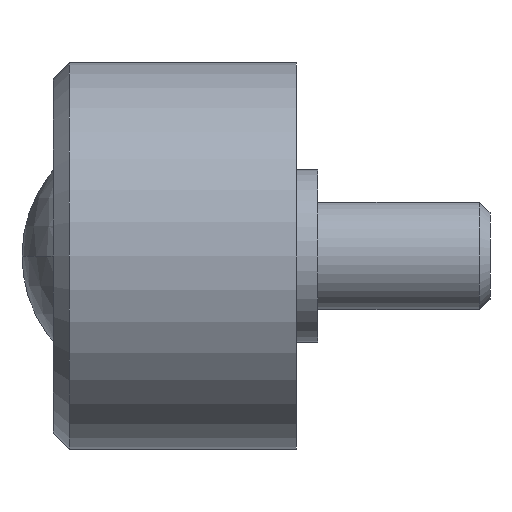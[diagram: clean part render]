
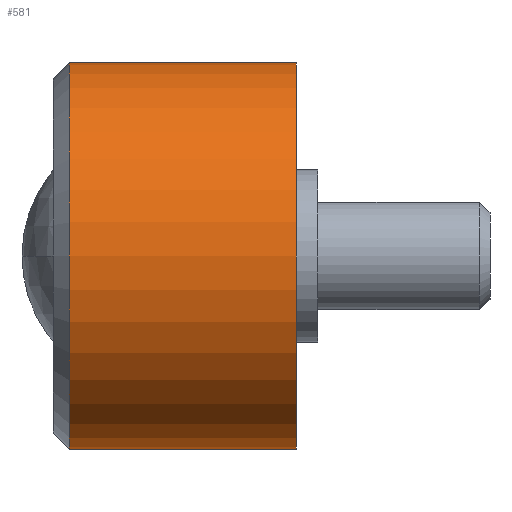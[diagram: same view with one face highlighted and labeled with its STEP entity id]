
A CAD part, left-side view. The second image highlights one B-rep face of the part: STEP entity #581.
In plain terms, the highlighted cylindrical face has radius 18 mm (diameter 36 mm), a partial arc.
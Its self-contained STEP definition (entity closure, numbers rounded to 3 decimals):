
#18 = VERTEX_POINT ( 'NONE', #382 ) ;
#21 = ORIENTED_EDGE ( 'NONE', *, *, #117, .T. ) ;
#30 = EDGE_CURVE ( 'NONE', #18, #146, #697, .T. ) ;
#37 = LINE ( 'NONE', #403, #81 ) ;
#42 = DIRECTION ( 'NONE',  ( 0., -1., 0. ) ) ;
#48 = DIRECTION ( 'NONE',  ( 0., -1., 0. ) ) ;
#62 = CARTESIAN_POINT ( 'NONE',  ( 0., 0., 0. ) ) ;
#65 = CYLINDRICAL_SURFACE ( 'NONE', #605, 18. ) ;
#78 = EDGE_CURVE ( 'NONE', #493, #18, #37, .T. ) ;
#81 = VECTOR ( 'NONE', #48, 1000. ) ;
#100 = VERTEX_POINT ( 'NONE', #704 ) ;
#114 = VECTOR ( 'NONE', #230, 1000. ) ;
#117 = EDGE_CURVE ( 'NONE', #100, #146, #512, .T. ) ;
#119 = CARTESIAN_POINT ( 'NONE',  ( 0., 21.1, 18. ) ) ;
#146 = VERTEX_POINT ( 'NONE', #434 ) ;
#155 = AXIS2_PLACEMENT_3D ( 'NONE', #587, #42, #438 ) ;
#168 = CIRCLE ( 'NONE', #648, 18. ) ;
#216 = CARTESIAN_POINT ( 'NONE',  ( 0., 0., -18. ) ) ;
#230 = DIRECTION ( 'NONE',  ( 0., -1., 0. ) ) ;
#382 = CARTESIAN_POINT ( 'NONE',  ( 0., 0., 18. ) ) ;
#393 = ORIENTED_EDGE ( 'NONE', *, *, #30, .F. ) ;
#403 = CARTESIAN_POINT ( 'NONE',  ( 0., 0., 18. ) ) ;
#413 = ORIENTED_EDGE ( 'NONE', *, *, #694, .T. ) ;
#434 = CARTESIAN_POINT ( 'NONE',  ( 0., 0., -18. ) ) ;
#438 = DIRECTION ( 'NONE',  ( 0., 0., -1. ) ) ;
#450 = EDGE_LOOP ( 'NONE', ( #517, #413, #21, #393 ) ) ;
#475 = FACE_OUTER_BOUND ( 'NONE', #450, .T. ) ;
#493 = VERTEX_POINT ( 'NONE', #119 ) ;
#512 = LINE ( 'NONE', #216, #114 ) ;
#517 = ORIENTED_EDGE ( 'NONE', *, *, #78, .F. ) ;
#575 = CARTESIAN_POINT ( 'NONE',  ( 0., 21.1, 0. ) ) ;
#581 = ADVANCED_FACE ( 'NONE', ( #475 ), #65, .T. ) ;
#587 = CARTESIAN_POINT ( 'NONE',  ( 0., 0., 0. ) ) ;
#595 = DIRECTION ( 'NONE',  ( 0., -1., 0. ) ) ;
#603 = DIRECTION ( 'NONE',  ( 0., 0., -1. ) ) ;
#605 = AXIS2_PLACEMENT_3D ( 'NONE', #62, #595, #603 ) ;
#644 = DIRECTION ( 'NONE',  ( 0., -1., 0. ) ) ;
#648 = AXIS2_PLACEMENT_3D ( 'NONE', #575, #644, #764 ) ;
#694 = EDGE_CURVE ( 'NONE', #493, #100, #168, .T. ) ;
#697 = CIRCLE ( 'NONE', #155, 18. ) ;
#704 = CARTESIAN_POINT ( 'NONE',  ( 0., 21.1, -18. ) ) ;
#764 = DIRECTION ( 'NONE',  ( 0., 0., 1. ) ) ;
